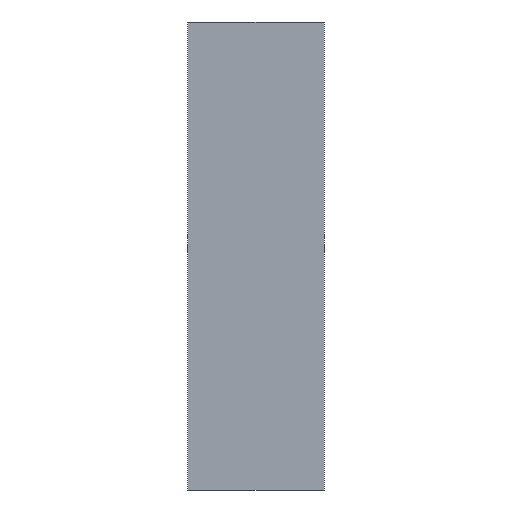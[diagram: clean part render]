
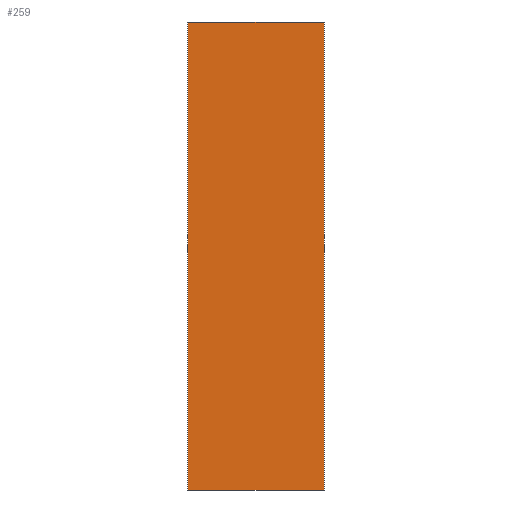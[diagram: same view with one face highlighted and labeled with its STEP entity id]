
A CAD part, front view. The second image highlights one B-rep face of the part: STEP entity #259.
In plain terms, the highlighted planar face has unit normal (0, -1, 0).
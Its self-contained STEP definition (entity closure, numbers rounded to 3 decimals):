
#43 = EDGE_CURVE('',#44,#46,#48,.T.);
#44 = VERTEX_POINT('',#45);
#45 = CARTESIAN_POINT('',(-48.,-1.25,-165.));
#46 = VERTEX_POINT('',#47);
#47 = CARTESIAN_POINT('',(-48.,-1.25,165.));
#48 = SURFACE_CURVE('',#49,(#53,#65),.PCURVE_S1.);
#49 = LINE('',#50,#51);
#50 = CARTESIAN_POINT('',(-48.,-1.25,-165.));
#51 = VECTOR('',#52,1.);
#52 = DIRECTION('',(0.,0.,1.));
#53 = PCURVE('',#54,#59);
#54 = PLANE('',#55);
#55 = AXIS2_PLACEMENT_3D('',#56,#57,#58);
#56 = CARTESIAN_POINT('',(-48.,-1.25,-165.));
#57 = DIRECTION('',(1.,0.,-0.));
#58 = DIRECTION('',(0.,0.,1.));
#59 = DEFINITIONAL_REPRESENTATION('',(#60),#64);
#60 = LINE('',#61,#62);
#61 = CARTESIAN_POINT('',(0.,0.));
#62 = VECTOR('',#63,1.);
#63 = DIRECTION('',(1.,0.));
#64 = ( GEOMETRIC_REPRESENTATION_CONTEXT(2) 
PARAMETRIC_REPRESENTATION_CONTEXT() REPRESENTATION_CONTEXT('2D SPACE',''
  ) );
#65 = PCURVE('',#66,#71);
#66 = PLANE('',#67);
#67 = AXIS2_PLACEMENT_3D('',#68,#69,#70);
#68 = CARTESIAN_POINT('',(-48.,-1.25,-165.));
#69 = DIRECTION('',(-0.,1.,0.));
#70 = DIRECTION('',(0.,0.,1.));
#71 = DEFINITIONAL_REPRESENTATION('',(#72),#76);
#72 = LINE('',#73,#74);
#73 = CARTESIAN_POINT('',(0.,0.));
#74 = VECTOR('',#75,1.);
#75 = DIRECTION('',(1.,0.));
#76 = ( GEOMETRIC_REPRESENTATION_CONTEXT(2) 
PARAMETRIC_REPRESENTATION_CONTEXT() REPRESENTATION_CONTEXT('2D SPACE',''
  ) );
#94 = PLANE('',#95);
#95 = AXIS2_PLACEMENT_3D('',#96,#97,#98);
#96 = CARTESIAN_POINT('',(-48.,-1.25,-165.));
#97 = DIRECTION('',(0.,0.,1.));
#98 = DIRECTION('',(1.,0.,-0.));
#148 = PLANE('',#149);
#149 = AXIS2_PLACEMENT_3D('',#150,#151,#152);
#150 = CARTESIAN_POINT('',(-48.,-1.25,165.));
#151 = DIRECTION('',(0.,0.,1.));
#152 = DIRECTION('',(1.,0.,-0.));
#163 = EDGE_CURVE('',#164,#166,#168,.T.);
#164 = VERTEX_POINT('',#165);
#165 = CARTESIAN_POINT('',(48.,-1.25,-165.));
#166 = VERTEX_POINT('',#167);
#167 = CARTESIAN_POINT('',(48.,-1.25,165.));
#168 = SURFACE_CURVE('',#169,(#173,#185),.PCURVE_S1.);
#169 = LINE('',#170,#171);
#170 = CARTESIAN_POINT('',(48.,-1.25,-165.));
#171 = VECTOR('',#172,1.);
#172 = DIRECTION('',(0.,0.,1.));
#173 = PCURVE('',#174,#179);
#174 = PLANE('',#175);
#175 = AXIS2_PLACEMENT_3D('',#176,#177,#178);
#176 = CARTESIAN_POINT('',(48.,-1.25,-165.));
#177 = DIRECTION('',(1.,0.,-0.));
#178 = DIRECTION('',(0.,0.,1.));
#179 = DEFINITIONAL_REPRESENTATION('',(#180),#184);
#180 = LINE('',#181,#182);
#181 = CARTESIAN_POINT('',(0.,0.));
#182 = VECTOR('',#183,1.);
#183 = DIRECTION('',(1.,0.));
#184 = ( GEOMETRIC_REPRESENTATION_CONTEXT(2) 
PARAMETRIC_REPRESENTATION_CONTEXT() REPRESENTATION_CONTEXT('2D SPACE',''
  ) );
#185 = PCURVE('',#66,#186);
#186 = DEFINITIONAL_REPRESENTATION('',(#187),#191);
#187 = LINE('',#188,#189);
#188 = CARTESIAN_POINT('',(0.,96.));
#189 = VECTOR('',#190,1.);
#190 = DIRECTION('',(1.,0.));
#191 = ( GEOMETRIC_REPRESENTATION_CONTEXT(2) 
PARAMETRIC_REPRESENTATION_CONTEXT() REPRESENTATION_CONTEXT('2D SPACE',''
  ) );
#259 = ADVANCED_FACE('',(#260),#66,.F.);
#260 = FACE_BOUND('',#261,.F.);
#261 = EDGE_LOOP('',(#262,#283,#284,#305));
#262 = ORIENTED_EDGE('',*,*,#263,.F.);
#263 = EDGE_CURVE('',#44,#164,#264,.T.);
#264 = SURFACE_CURVE('',#265,(#269,#276),.PCURVE_S1.);
#265 = LINE('',#266,#267);
#266 = CARTESIAN_POINT('',(-48.,-1.25,-165.));
#267 = VECTOR('',#268,1.);
#268 = DIRECTION('',(1.,0.,-0.));
#269 = PCURVE('',#66,#270);
#270 = DEFINITIONAL_REPRESENTATION('',(#271),#275);
#271 = LINE('',#272,#273);
#272 = CARTESIAN_POINT('',(0.,0.));
#273 = VECTOR('',#274,1.);
#274 = DIRECTION('',(0.,1.));
#275 = ( GEOMETRIC_REPRESENTATION_CONTEXT(2) 
PARAMETRIC_REPRESENTATION_CONTEXT() REPRESENTATION_CONTEXT('2D SPACE',''
  ) );
#276 = PCURVE('',#94,#277);
#277 = DEFINITIONAL_REPRESENTATION('',(#278),#282);
#278 = LINE('',#279,#280);
#279 = CARTESIAN_POINT('',(0.,0.));
#280 = VECTOR('',#281,1.);
#281 = DIRECTION('',(1.,0.));
#282 = ( GEOMETRIC_REPRESENTATION_CONTEXT(2) 
PARAMETRIC_REPRESENTATION_CONTEXT() REPRESENTATION_CONTEXT('2D SPACE',''
  ) );
#283 = ORIENTED_EDGE('',*,*,#43,.T.);
#284 = ORIENTED_EDGE('',*,*,#285,.T.);
#285 = EDGE_CURVE('',#46,#166,#286,.T.);
#286 = SURFACE_CURVE('',#287,(#291,#298),.PCURVE_S1.);
#287 = LINE('',#288,#289);
#288 = CARTESIAN_POINT('',(-48.,-1.25,165.));
#289 = VECTOR('',#290,1.);
#290 = DIRECTION('',(1.,0.,-0.));
#291 = PCURVE('',#66,#292);
#292 = DEFINITIONAL_REPRESENTATION('',(#293),#297);
#293 = LINE('',#294,#295);
#294 = CARTESIAN_POINT('',(330.,0.));
#295 = VECTOR('',#296,1.);
#296 = DIRECTION('',(0.,1.));
#297 = ( GEOMETRIC_REPRESENTATION_CONTEXT(2) 
PARAMETRIC_REPRESENTATION_CONTEXT() REPRESENTATION_CONTEXT('2D SPACE',''
  ) );
#298 = PCURVE('',#148,#299);
#299 = DEFINITIONAL_REPRESENTATION('',(#300),#304);
#300 = LINE('',#301,#302);
#301 = CARTESIAN_POINT('',(0.,0.));
#302 = VECTOR('',#303,1.);
#303 = DIRECTION('',(1.,0.));
#304 = ( GEOMETRIC_REPRESENTATION_CONTEXT(2) 
PARAMETRIC_REPRESENTATION_CONTEXT() REPRESENTATION_CONTEXT('2D SPACE',''
  ) );
#305 = ORIENTED_EDGE('',*,*,#163,.F.);
